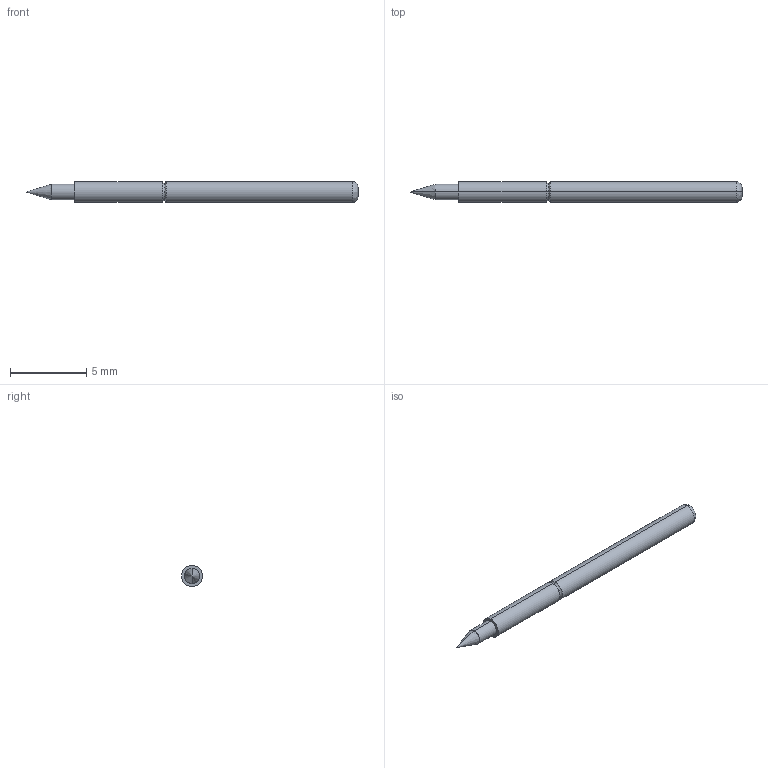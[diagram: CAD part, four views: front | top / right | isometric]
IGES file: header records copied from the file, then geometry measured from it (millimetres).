
Start section: SolidWorks IGES file using analytic representation for surfaces
Global section: file name: O:\PYLON\IGES FILES\P3158\P3158G-3C1S REC'D.IGS; native system: SolidWorks 2015; preprocessor: SolidWorks 2015; author: kgolden; date: 171020.060910; units: inch
Bounding box: 21.74 x 1.37 x 1.37 mm (x, y, z)
Surface area: 94.4 mm2 (no closed solid volume)
Topology: 0 solids, 0 shells, 18 faces, 112 edges, 110 vertices
Faces by surface type: revolution 10, bspline 8
